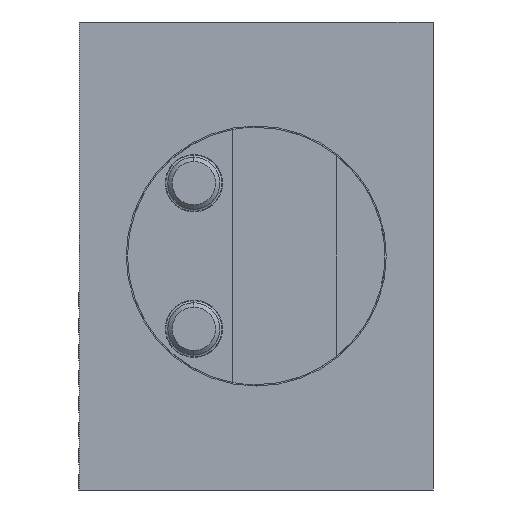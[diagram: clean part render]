
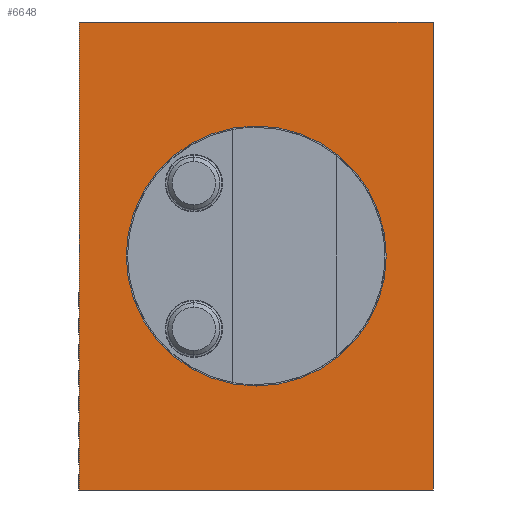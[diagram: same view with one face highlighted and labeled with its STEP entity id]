
A CAD part, front view. The second image highlights one B-rep face of the part: STEP entity #6648.
In plain terms, the highlighted planar face has unit normal (0, -1, 0).
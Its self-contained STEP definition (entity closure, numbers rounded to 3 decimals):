
#2756 = CARTESIAN_POINT ( 'NONE',  ( -25., -33.77, 0. ) ) ;
#2781 = CARTESIAN_POINT ( 'NONE',  ( 0., -33.77, 0. ) ) ;
#2790 = AXIS2_PLACEMENT_3D ( 'NONE', #2781, #2793, #2792 ) ;
#2792 = DIRECTION ( 'NONE',  ( -1., 0., 0. ) ) ;
#2793 = DIRECTION ( 'NONE',  ( 0., 1., 0. ) ) ;
#2815 = CIRCLE ( 'NONE', #2790, 25. ) ;
#2942 = CARTESIAN_POINT ( 'NONE',  ( 25., -33.77, 0. ) ) ;
#4708 = CARTESIAN_POINT ( 'NONE',  ( -34., -33.77, -45. ) ) ;
#4747 = CARTESIAN_POINT ( 'NONE',  ( 34., -33.77, -45. ) ) ;
#4748 = DIRECTION ( 'NONE',  ( 0., 0., -1. ) ) ;
#4749 = VECTOR ( 'NONE', #4748, 1000. ) ;
#4750 = CARTESIAN_POINT ( 'NONE',  ( 34., -33.77, -45. ) ) ;
#4751 = LINE ( 'NONE', #4750, #4749 ) ;
#4766 = DIRECTION ( 'NONE',  ( -1., 0., 0. ) ) ;
#4767 = DIRECTION ( 'NONE',  ( 0., 1., 0. ) ) ;
#4768 = CARTESIAN_POINT ( 'NONE',  ( 0., -33.77, 0. ) ) ;
#4769 = AXIS2_PLACEMENT_3D ( 'NONE', #4768, #4767, #4766 ) ;
#4770 = CIRCLE ( 'NONE', #4769, 25. ) ;
#4784 = CARTESIAN_POINT ( 'NONE',  ( 34., -33.77, 45. ) ) ;
#4789 = DIRECTION ( 'NONE',  ( -1., 0., 0. ) ) ;
#4790 = VECTOR ( 'NONE', #4789, 1000. ) ;
#4791 = CARTESIAN_POINT ( 'NONE',  ( 34., -33.77, -45. ) ) ;
#4792 = LINE ( 'NONE', #4791, #4790 ) ;
#4797 = CARTESIAN_POINT ( 'NONE',  ( -34., -33.77, 45. ) ) ;
#4798 = DIRECTION ( 'NONE',  ( 0., 0., 1. ) ) ;
#4799 = VECTOR ( 'NONE', #4798, 1000. ) ;
#4800 = CARTESIAN_POINT ( 'NONE',  ( -34., -33.77, -45. ) ) ;
#4801 = LINE ( 'NONE', #4800, #4799 ) ;
#4837 = DIRECTION ( 'NONE',  ( 1., 0., 0. ) ) ;
#4839 = VECTOR ( 'NONE', #4837, 1000. ) ;
#4840 = CARTESIAN_POINT ( 'NONE',  ( 34., -33.77, 45. ) ) ;
#4841 = LINE ( 'NONE', #4840, #4839 ) ;
#5073 = CARTESIAN_POINT ( 'NONE',  ( 34., -33.77, -45. ) ) ;
#5074 = AXIS2_PLACEMENT_3D ( 'NONE', #5073, #5122, #5121 ) ;
#5075 = PLANE ( 'NONE',  #5074 ) ;
#5076 = FACE_OUTER_BOUND ( 'NONE', #6602, .T. ) ;
#5082 = FACE_BOUND ( 'NONE', #6590, .T. ) ;
#5121 = DIRECTION ( 'NONE',  ( -1., 0., 0. ) ) ;
#5122 = DIRECTION ( 'NONE',  ( 0., 1., 0. ) ) ;
#6468 = VERTEX_POINT ( 'NONE', #4708 ) ;
#6476 = EDGE_CURVE ( 'NONE', #6544, #6576, #4841, .T. ) ;
#6501 = EDGE_CURVE ( 'NONE', #6576, #6502, #4751, .T. ) ;
#6502 = VERTEX_POINT ( 'NONE', #4747 ) ;
#6543 = EDGE_CURVE ( 'NONE', #6468, #6544, #4801, .T. ) ;
#6544 = VERTEX_POINT ( 'NONE', #4797 ) ;
#6556 = EDGE_CURVE ( 'NONE', #6502, #6468, #4792, .T. ) ;
#6576 = VERTEX_POINT ( 'NONE', #4784 ) ;
#6590 = EDGE_LOOP ( 'NONE', ( #6649, #6601 ) ) ;
#6600 = EDGE_CURVE ( 'NONE', #6847, #6863, #4770, .T. ) ;
#6601 = ORIENTED_EDGE ( 'NONE', *, *, #6856, .T. ) ;
#6602 = EDGE_LOOP ( 'NONE', ( #6603, #6604, #6605, #6606 ) ) ;
#6603 = ORIENTED_EDGE ( 'NONE', *, *, #6556, .F. ) ;
#6604 = ORIENTED_EDGE ( 'NONE', *, *, #6501, .F. ) ;
#6605 = ORIENTED_EDGE ( 'NONE', *, *, #6476, .F. ) ;
#6606 = ORIENTED_EDGE ( 'NONE', *, *, #6543, .F. ) ;
#6648 = ADVANCED_FACE ( 'NONE', ( #5082, #5076 ), #5075, .F. ) ;
#6649 = ORIENTED_EDGE ( 'NONE', *, *, #6600, .T. ) ;
#6847 = VERTEX_POINT ( 'NONE', #2756 ) ;
#6856 = EDGE_CURVE ( 'NONE', #6863, #6847, #2815, .T. ) ;
#6863 = VERTEX_POINT ( 'NONE', #2942 ) ;
